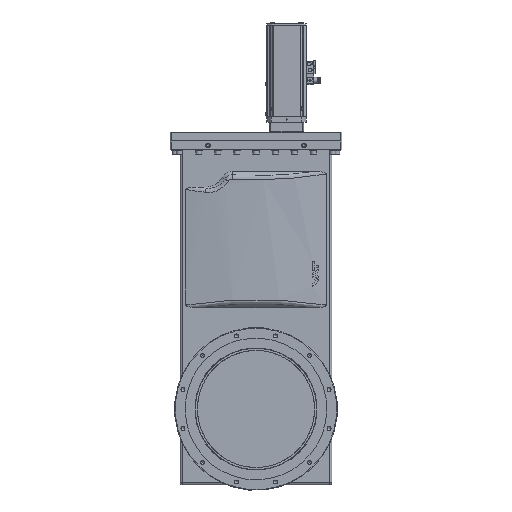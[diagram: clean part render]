
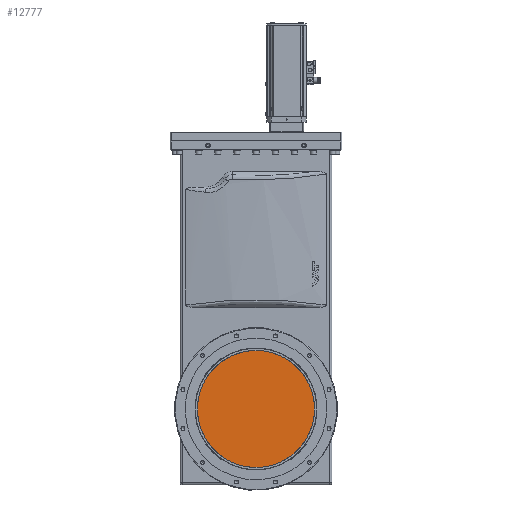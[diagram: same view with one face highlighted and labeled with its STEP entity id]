
A CAD part, front view. The second image highlights one B-rep face of the part: STEP entity #12777.
In plain terms, the highlighted planar face has unit normal (0, -1, 0) as drawn and (0, 0, -1) by its records, which use the part's own axes.
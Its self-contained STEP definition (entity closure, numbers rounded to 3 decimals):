
#11550=FACE_OUTER_BOUND('',#16292,.T.);
#12777=ADVANCED_FACE('',(#11550),#13480,.F.);
#13480=PLANE('',#33291);
#16292=EDGE_LOOP('',(#25208));
#25208=ORIENTED_EDGE('',*,*,#30380,.F.);
#27523=VERTEX_POINT('',#49874);
#30380=EDGE_CURVE('',#27523,#27523,#31320,.T.);
#31320=CIRCLE('',#33288,165.);
#33288=AXIS2_PLACEMENT_3D('',#49873,#38654,#38655);
#33291=AXIS2_PLACEMENT_3D('',#49877,#38660,#38661);
#38654=DIRECTION('',(0.,0.,1.));
#38655=DIRECTION('',(1.,0.,0.));
#38660=DIRECTION('',(0.,0.,1.));
#38661=DIRECTION('',(1.,0.,0.));
#49873=CARTESIAN_POINT('',(0.,0.,0.));
#49874=CARTESIAN_POINT('',(165.,0.,0.));
#49877=CARTESIAN_POINT('',(0.,0.,0.));
